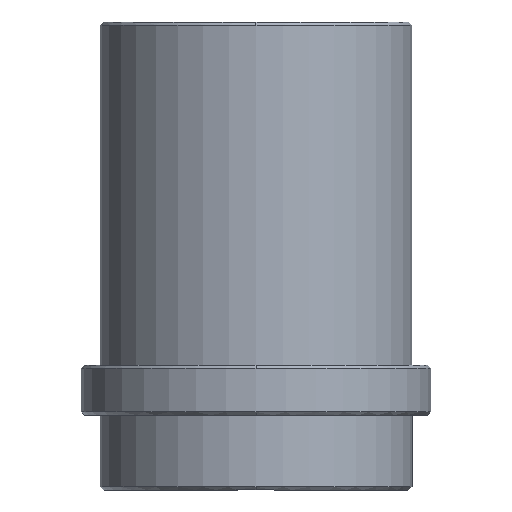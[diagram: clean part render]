
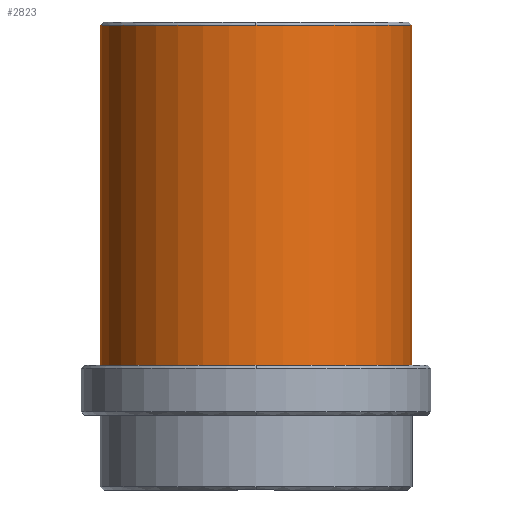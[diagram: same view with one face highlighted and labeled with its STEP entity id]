
A CAD part, front view. The second image highlights one B-rep face of the part: STEP entity #2823.
In plain terms, the highlighted cylindrical face has radius 25 mm (diameter 50 mm), a partial arc.
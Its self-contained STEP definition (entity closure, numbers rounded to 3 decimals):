
#2644=CARTESIAN_POINT('Vertex',(25.,0.,62.5)) ;
#2668=CARTESIAN_POINT('Vertex',(-25.,0.,62.5)) ;
#2692=CARTESIAN_POINT('Vertex',(0.,-25.,62.5)) ;
#2695=CARTESIAN_POINT('Axis2P3D Location',(0.,0.,62.5)) ;
#2712=CARTESIAN_POINT('Axis2P3D Location',(0.,0.,62.5)) ;
#2779=CARTESIAN_POINT('Line Origine',(25.,0.,-15.75)) ;
#2783=CARTESIAN_POINT('Vertex',(25.,0.,8.)) ;
#2790=CARTESIAN_POINT('Vertex',(-25.,0.,8.)) ;
#2793=CARTESIAN_POINT('Line Origine',(-25.,0.,-15.75)) ;
#2806=CARTESIAN_POINT('Axis2P3D Location',(0.,0.,-15.75)) ;
#2811=CARTESIAN_POINT('Axis2P3D Location',(0.,0.,8.)) ;
#2696=DIRECTION('Axis2P3D Direction',(0.,0.,-1.)) ;
#2713=DIRECTION('Axis2P3D Direction',(0.,0.,-1.)) ;
#2780=DIRECTION('Vector Direction',(0.,0.,1.)) ;
#2794=DIRECTION('Vector Direction',(0.,0.,1.)) ;
#2807=DIRECTION('Axis2P3D Direction',(0.,0.,1.)) ;
#2808=DIRECTION('Axis2P3D XDirection',(-1.,0.,0.)) ;
#2812=DIRECTION('Axis2P3D Direction',(0.,0.,1.)) ;
#2697=AXIS2_PLACEMENT_3D('Circle Axis2P3D',#2695,#2696,$) ;
#2714=AXIS2_PLACEMENT_3D('Circle Axis2P3D',#2712,#2713,$) ;
#2809=AXIS2_PLACEMENT_3D('Cylinder Axis2P3D',#2806,#2807,#2808) ;
#2813=AXIS2_PLACEMENT_3D('Circle Axis2P3D',#2811,#2812,$) ;
#2817=ORIENTED_EDGE('',*,*,#2797,.T.) ;
#2818=ORIENTED_EDGE('',*,*,#2815,.F.) ;
#2819=ORIENTED_EDGE('',*,*,#2785,.F.) ;
#2820=ORIENTED_EDGE('',*,*,#2716,.T.) ;
#2821=ORIENTED_EDGE('',*,*,#2699,.T.) ;
#2781=VECTOR('Line Direction',#2780,1.) ;
#2795=VECTOR('Line Direction',#2794,1.) ;
#2823=ADVANCED_FACE('MANIFOLD_SOLID_BREP #2384',(#2822),#2810,.T.) ;
#2698=CIRCLE('generated circle',#2697,25.) ;
#2715=CIRCLE('generated circle',#2714,25.) ;
#2814=CIRCLE('generated circle',#2813,25.) ;
#2810=CYLINDRICAL_SURFACE('generated cylinder',#2809,25.) ;
#2699=EDGE_CURVE('',#2693,#2669,#2698,.T.) ;
#2716=EDGE_CURVE('',#2645,#2693,#2715,.T.) ;
#2785=EDGE_CURVE('',#2645,#2784,#2782,.F.) ;
#2797=EDGE_CURVE('',#2669,#2791,#2796,.F.) ;
#2815=EDGE_CURVE('',#2784,#2791,#2814,.F.) ;
#2816=EDGE_LOOP('',(#2817,#2818,#2819,#2820,#2821)) ;
#2822=FACE_OUTER_BOUND('',#2816,.T.) ;
#2782=LINE('Line',#2779,#2781) ;
#2796=LINE('Line',#2793,#2795) ;
#2645=VERTEX_POINT('',#2644) ;
#2669=VERTEX_POINT('',#2668) ;
#2693=VERTEX_POINT('',#2692) ;
#2784=VERTEX_POINT('',#2783) ;
#2791=VERTEX_POINT('',#2790) ;
